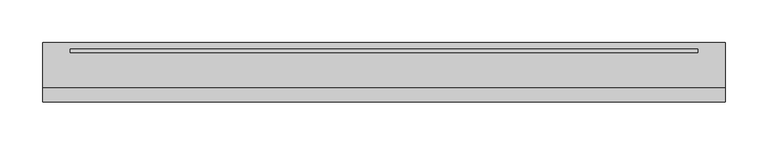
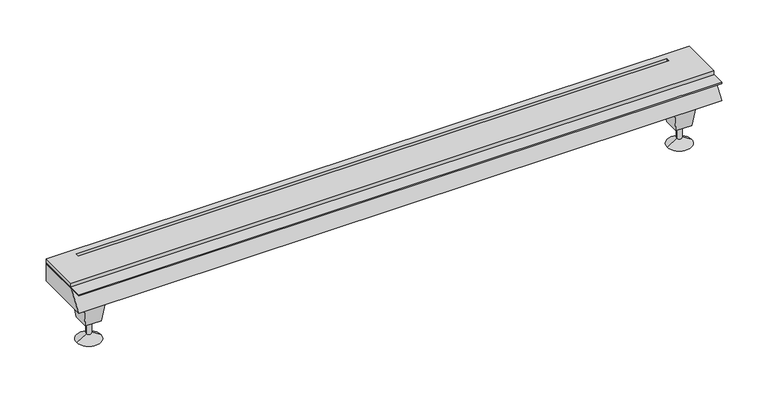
"""IFC4 building model written with IfcOpenShell, lengths in millimetres: sanitary terminal geometry, NLRS_PF_52_UN_XS Nano Wall_Easydrain : XS Nano Wall with M2 flat siphon."""

from ifc_helpers import new_model, si_unit, frame, origin, place, context, project, spatial, polyline, circle_curve, outline, extrude, faceted_brep, source, transform, mapped, element, save
from ifc_brep_helpers import plane_surface, cylinder_surface, revolved_surface, advanced_brep


def sanitary_terminal_ecf4810a(model_context):
    return source(origin(), model_context, "Body", "SolidModel", [
        advanced_brep(
        [(370.5, 0.0, -69.0), (364.5, 0.0, -69.0), (367.5, 0.0, -69.0), (370.5, 0.0, -87.5), (364.5, 0.0, -87.5), (382.5, 0.0, -95.0), (352.5, 0.0, -95.0), (367.5, 0.0, -95.0)],
        [
            (0, 1, circle_curve(frame((367.5, 0.0, -69.0), z_axis=(0.0, 0.0, 1.0), x_axis=(-1.0, 0.0, 0.0)), 3.0)),
            (1, 2),
            (2, 0),
            (1, 0, circle_curve(frame((367.5, 0.0, -69.0), z_axis=(0.0, 0.0, 1.0), x_axis=(-1.0, 0.0, 0.0)), 3.0)),
            (3, 4, circle_curve(frame((367.5, 0.0, -87.5), z_axis=(0.0, 0.0, 1.0), x_axis=(-1.0, 0.0, 0.0)), 3.0)),
            (4, 1),
            (0, 3),
            (4, 3, circle_curve(frame((367.5, 0.0, -87.5), z_axis=(0.0, 0.0, 1.0), x_axis=(-1.0, 0.0, 0.0)), 3.0)),
            (5, 6, circle_curve(frame((367.5, 0.0, -95.0), z_axis=(0.0, 0.0, 1.0), x_axis=(-1.0, 0.0, 0.0)), 15.0)),
            (6, 4),
            (3, 5),
            (6, 5, circle_curve(frame((367.5, 0.0, -95.0), z_axis=(0.0, 0.0, 1.0), x_axis=(-1.0, 0.0, 0.0)), 15.0)),
            (7, 6),
            (5, 7),
        ],
        [
            plane_surface(frame((367.5, 0.0, -69.0), z_axis=(0.0, 0.0, 1.0), x_axis=(-1.0, 0.0, 0.0))),
            cylinder_surface(frame((367.5, 0.0, -103.1782032), z_axis=(0.0, 0.0, -1.0), x_axis=(-1.0, 0.0, 0.0)), 3.0),
            revolved_surface(polyline([(364.5, 0.0, -87.5), (352.5, 0.0, -95.0)]), (367.5, 0.0, -103.1782032), (0.0, 0.0, -1.0)),
            plane_surface(frame((367.5, 0.0, -95.0), z_axis=(0.0, 0.0, -1.0), x_axis=(-1.0, 0.0, 0.0))),
        ],
        [
            (0, [[1, 2, 3]]),
            (0, [[4, -3, -2]]),
            (1, [[5, 6, -1, 7]]),
            (1, [[8, -7, -4, -6]]),
            (2, [[9, 10, -5, 11]]),
            (2, [[12, -11, -8, -10]]),
            (3, [[13, -9, 14]]),
            (3, [[-14, -12, -13]]),
        ],
    ),
        faceted_brep([(357.5, 10.0, -69.0), (377.5, 10.0, -69.0), (377.5, -10.0, -69.0), (357.5, -10.0, -69.0), (352.5, 15.0, -29.0), (352.5, -15.0, -29.0), (382.5, -15.0, -29.0), (382.5, 15.0, -29.0)], [[[0, 1, 2, 3]], [[4, 5, 6, 7]], [[5, 4, 0, 3]], [[6, 5, 3, 2]], [[7, 6, 2, 1]], [[4, 7, 1, 0]]]),
        advanced_brep(
        [(-364.5, 0.0, -69.0), (-370.5, 0.0, -69.0), (-367.5, 0.0, -69.0), (-364.5, 0.0, -87.5), (-370.5, 0.0, -87.5), (-352.5, 0.0, -95.0), (-382.5, 0.0, -95.0), (-367.5, 0.0, -95.0)],
        [
            (0, 1, circle_curve(frame((-367.5, 0.0, -69.0), z_axis=(0.0, 0.0, 1.0), x_axis=(-1.0, 0.0, 0.0)), 3.0)),
            (1, 2),
            (2, 0),
            (1, 0, circle_curve(frame((-367.5, 0.0, -69.0), z_axis=(0.0, 0.0, 1.0), x_axis=(-1.0, 0.0, 0.0)), 3.0)),
            (3, 4, circle_curve(frame((-367.5, 0.0, -87.5), z_axis=(0.0, 0.0, 1.0), x_axis=(-1.0, 0.0, 0.0)), 3.0)),
            (4, 1),
            (0, 3),
            (4, 3, circle_curve(frame((-367.5, 0.0, -87.5), z_axis=(0.0, 0.0, 1.0), x_axis=(-1.0, 0.0, 0.0)), 3.0)),
            (5, 6, circle_curve(frame((-367.5, 0.0, -95.0), z_axis=(0.0, 0.0, 1.0), x_axis=(-1.0, 0.0, 0.0)), 15.0)),
            (6, 4),
            (3, 5),
            (6, 5, circle_curve(frame((-367.5, 0.0, -95.0), z_axis=(0.0, 0.0, 1.0), x_axis=(-1.0, 0.0, 0.0)), 15.0)),
            (7, 6),
            (5, 7),
        ],
        [
            plane_surface(frame((-367.5, 0.0, -69.0), z_axis=(0.0, 0.0, 1.0), x_axis=(-1.0, 0.0, 0.0))),
            cylinder_surface(frame((-367.5, 0.0, -103.1782032), z_axis=(0.0, 0.0, -1.0), x_axis=(-1.0, 0.0, 0.0)), 3.0),
            revolved_surface(polyline([(-370.5, 0.0, -87.5), (-382.5, 0.0, -95.0)]), (-367.5, 0.0, -103.1782032), (0.0, 0.0, -1.0)),
            plane_surface(frame((-367.5, 0.0, -95.0), z_axis=(0.0, 0.0, -1.0), x_axis=(-1.0, 0.0, 0.0))),
        ],
        [
            (0, [[1, 2, 3]]),
            (0, [[4, -3, -2]]),
            (1, [[5, 6, -1, 7]]),
            (1, [[8, -7, -4, -6]]),
            (2, [[9, 10, -5, 11]]),
            (2, [[12, -11, -8, -10]]),
            (3, [[13, -9, 14]]),
            (3, [[-14, -12, -13]]),
        ],
    ),
        faceted_brep([(-377.5, 10.0, -69.0), (-357.5, 10.0, -69.0), (-357.5, -10.0, -69.0), (-377.5, -10.0, -69.0), (-382.5, 15.0, -29.0), (-382.5, -15.0, -29.0), (-352.5, -15.0, -29.0), (-352.5, 15.0, -29.0)], [[[0, 1, 2, 3]], [[4, 5, 6, 7]], [[5, 4, 0, 3]], [[6, 5, 3, 2]], [[7, 6, 2, 1]], [[4, 7, 1, 0]]]),
        extrude(outline(polyline([(400.0, 35.0), (400.0, -18.0), (-400.0, -18.0), (-400.0, 35.0), (400.0, 35.0)]), holes=[polyline([(-367.5, 27.0), (-367.5, 23.0), (367.5, 23.0), (367.5, 27.0), (-367.5, 27.0)])]), frame((0.0, 0.0, -5.0), z_axis=(0.0, 0.0, 1.0), x_axis=(1.0, 0.0, 0.0)), (0.0, 0.0, 1.0), 5.0),
        extrude(outline(polyline([(400.0, 35.0), (400.0, -35.0), (-400.0, -35.0), (-400.0, 35.0), (400.0, 35.0)])), frame((0.0, 0.0, -6.4659054), z_axis=(0.0, 0.0, 1.0), x_axis=(1.0, 0.0, 0.0)), (0.0, 0.0, 1.0), 1.4659054),
        extrude(outline(polyline([(-18.0, -5.0), (35.0, -5.0), (35.0, -29.0), (-35.0, -29.0), (-18.0, -5.0)])), frame((-400.0, 0.0, 0.0), z_axis=(1.0, 0.0, 0.0), x_axis=(0.0, 1.0, 0.0)), (0.0, 0.0, 1.0), 800.0),
    ])


if __name__ == "__main__":
    model = new_model("IFC4")
    model_context = context("Model", 3, world=origin())
    ifc_project = project(units=[si_unit("LENGTHUNIT", "METRE", prefix="MILLI")], contexts=[model_context])
    site = spatial("IfcSite", under=ifc_project)
    building = spatial("IfcBuilding", under=site)
    placement = place(None, origin())
    sanitary_terminal_shape = sanitary_terminal_ecf4810a(model_context)
    element("IfcSanitaryTerminal", 1, ObjectType="NLRS_PF_52_UN_XS Nano Wall_Easydrain : XS Nano Wall with M2 flat siphon", at=placement, inside=building, context=model_context, shape_type="MappedRepresentation", body=[
        mapped(sanitary_terminal_shape, transform((0.0, 0.0, 0.0), x_axis=(1.0, 0.0, 0.0), y_axis=(0.0, 1.0, 0.0), z_axis=(0.0, 0.0, 1.0))),
    ])
    save(model, "model.ifc")
